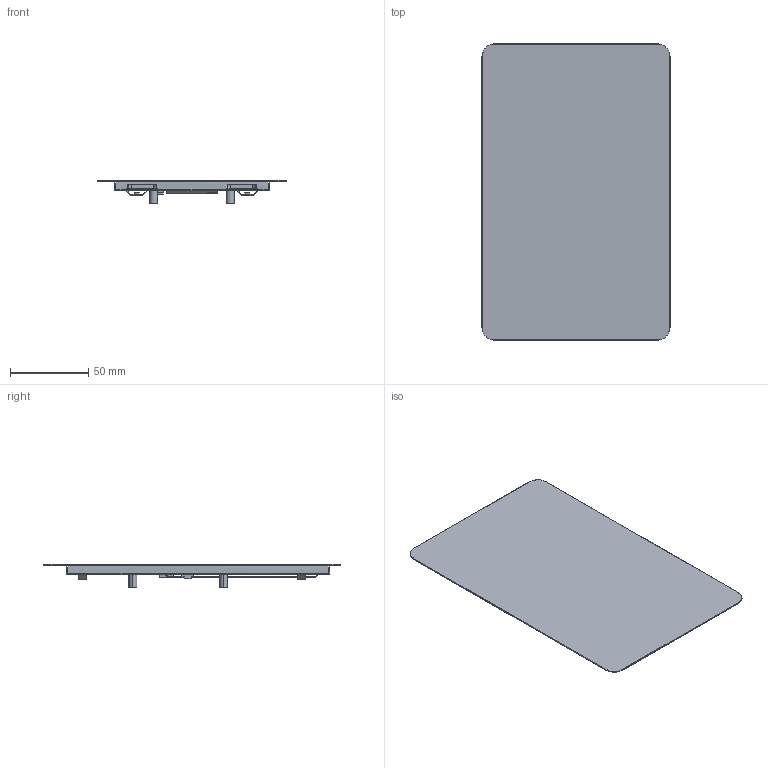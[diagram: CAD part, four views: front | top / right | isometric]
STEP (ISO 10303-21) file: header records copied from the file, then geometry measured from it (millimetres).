
FILE_DESCRIPTION (( 'STEP AP203' ), '1' );
FILE_NAME ('raspberry-pi-touch-display-2-step-7inch.STEP', '2026-09-25T10:23:25', ( '' ), ( '' ), 'SwSTEP 2.0', 'SolidWorks 2021', '' );
FILE_SCHEMA (( 'CONFIG_CONTROL_DESIGN' ));
Length unit declared in the file: millimetre
Products named in the file (10): 222; 22222; 2222; 555; 333; 444; raspberry-pi-touch-display-2-step-7inch; 666; 111; 3333
Assembly tree (9 placements, depth 4):
  raspberry-pi-touch-display-2-step-7inch
    111
      222
        2222
        22222
      333
        3333
      444
      555
      666
Bounding box: 120.24 x 189.32 x 14.96 mm (x, y, z)
Volume: 38886 mm3; surface area: 118833.3 mm2
Topology: 5 solids, 29 shells, 430 faces, 1087 edges, 673 vertices
Faces by surface type: plane 324, cylinder 78, cone 24, torus 4
Entity records: 15368 total; most frequent: CARTESIAN_POINT 5413, ORIENTED_EDGE 1999, DIRECTION 1386, EDGE_CURVE 1079, VERTEX_POINT 673, B_SPLINE_CURVE_WITH_KNOTS 649, AXIS2_PLACEMENT_3D 510, EDGE_LOOP 466
